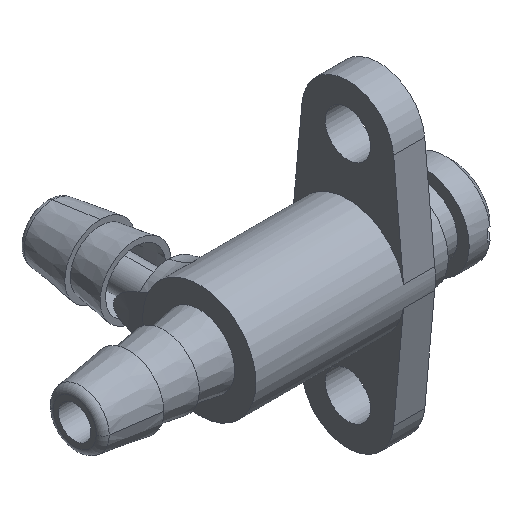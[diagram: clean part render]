
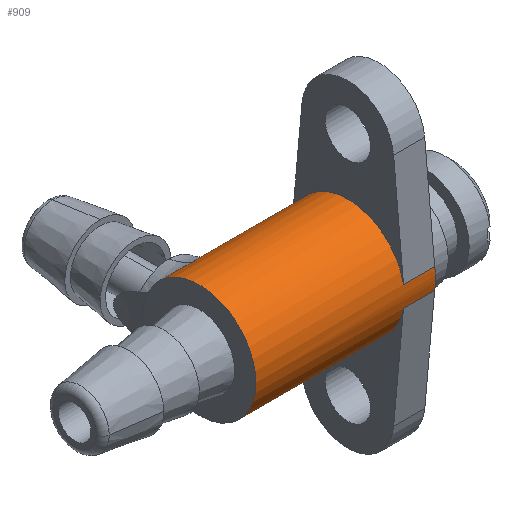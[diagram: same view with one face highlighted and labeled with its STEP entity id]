
A CAD part, isometric view. The second image highlights one B-rep face of the part: STEP entity #909.
In plain terms, the highlighted cylindrical face has radius 4 mm (diameter 8 mm), a full revolution.
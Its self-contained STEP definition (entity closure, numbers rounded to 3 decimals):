
#15=B_SPLINE_CURVE_WITH_KNOTS('',3,(#1611,#1612,#1613,#1614,#1615,#1616,
#1617,#1618,#1619,#1620),.UNSPECIFIED.,.F.,.F.,(4,2,2,2,4),(-1.303,
-1.261,-1.212,-1.082,-1.046),
 .UNSPECIFIED.);
#16=B_SPLINE_CURVE_WITH_KNOTS('',3,(#1622,#1623,#1624,#1625,#1626,#1627,
#1628,#1629,#1630,#1631,#1632,#1633,#1634,#1635,#1636,#1637,#1638,#1639,
#1640,#1641,#1642,#1643,#1644,#1645,#1646,#1647,#1648,#1649,#1650),
 .UNSPECIFIED.,.F.,.F.,(4,2,2,2,2,2,3,2,2,2,2,2,2,4),(-0.53,
-0.492,-0.432,-0.338,-0.193,
-0.091,0.,0.093,0.191,0.389,
0.496,0.545,0.582,0.585),
 .UNSPECIFIED.);
#17=B_SPLINE_CURVE_WITH_KNOTS('',3,(#1652,#1653,#1654,#1655,#1656,#1657,
#1658,#1659,#1660,#1661,#1662,#1663),.UNSPECIFIED.,.F.,.F.,(4,2,2,2,2,4),
(-0.808,-0.705,-0.626,-0.582,
-0.541,-0.53),.UNSPECIFIED.);
#104=FACE_OUTER_BOUND('',#158,.T.);
#158=EDGE_LOOP('',(#709,#710,#711,#712,#713,#714,#715,#716,#717,#718,#719,
#720,#721,#722,#723,#724));
#223=LINE('',#1595,#266);
#224=LINE('',#1599,#267);
#225=LINE('',#1603,#268);
#226=LINE('',#1607,#269);
#227=LINE('',#1667,#270);
#266=VECTOR('',#1270,2.2);
#267=VECTOR('',#1273,2.2);
#268=VECTOR('',#1276,2.2);
#269=VECTOR('',#1279,4.);
#270=VECTOR('',#1286,2.2);
#338=CIRCLE('',#1036,4.);
#339=CIRCLE('',#1037,4.);
#340=CIRCLE('',#1038,4.);
#341=CIRCLE('',#1039,4.);
#342=CIRCLE('',#1040,4.);
#343=CIRCLE('',#1041,4.);
#344=CIRCLE('',#1042,4.);
#428=VERTEX_POINT('',#1591);
#429=VERTEX_POINT('',#1592);
#430=VERTEX_POINT('',#1594);
#431=VERTEX_POINT('',#1596);
#432=VERTEX_POINT('',#1598);
#433=VERTEX_POINT('',#1600);
#434=VERTEX_POINT('',#1602);
#435=VERTEX_POINT('',#1604);
#436=VERTEX_POINT('',#1606);
#437=VERTEX_POINT('',#1608);
#438=VERTEX_POINT('',#1610);
#439=VERTEX_POINT('',#1621);
#440=VERTEX_POINT('',#1651);
#441=VERTEX_POINT('',#1665);
#539=EDGE_CURVE('',#428,#429,#338,.T.);
#540=EDGE_CURVE('',#428,#430,#223,.T.);
#541=EDGE_CURVE('',#431,#430,#339,.T.);
#542=EDGE_CURVE('',#431,#432,#224,.T.);
#543=EDGE_CURVE('',#433,#432,#340,.T.);
#544=EDGE_CURVE('',#433,#434,#225,.T.);
#545=EDGE_CURVE('',#435,#434,#341,.T.);
#546=EDGE_CURVE('',#435,#436,#226,.T.);
#547=EDGE_CURVE('',#436,#437,#342,.T.);
#548=EDGE_CURVE('',#438,#437,#15,.T.);
#549=EDGE_CURVE('',#439,#438,#16,.T.);
#550=EDGE_CURVE('',#440,#439,#17,.T.);
#551=EDGE_CURVE('',#440,#436,#343,.T.);
#552=EDGE_CURVE('',#441,#435,#344,.T.);
#553=EDGE_CURVE('',#441,#429,#227,.T.);
#709=ORIENTED_EDGE('',*,*,#539,.F.);
#710=ORIENTED_EDGE('',*,*,#540,.T.);
#711=ORIENTED_EDGE('',*,*,#541,.F.);
#712=ORIENTED_EDGE('',*,*,#542,.T.);
#713=ORIENTED_EDGE('',*,*,#543,.F.);
#714=ORIENTED_EDGE('',*,*,#544,.T.);
#715=ORIENTED_EDGE('',*,*,#545,.F.);
#716=ORIENTED_EDGE('',*,*,#546,.T.);
#717=ORIENTED_EDGE('',*,*,#547,.T.);
#718=ORIENTED_EDGE('',*,*,#548,.F.);
#719=ORIENTED_EDGE('',*,*,#549,.F.);
#720=ORIENTED_EDGE('',*,*,#550,.F.);
#721=ORIENTED_EDGE('',*,*,#551,.T.);
#722=ORIENTED_EDGE('',*,*,#546,.F.);
#723=ORIENTED_EDGE('',*,*,#552,.F.);
#724=ORIENTED_EDGE('',*,*,#553,.T.);
#868=CYLINDRICAL_SURFACE('',#1035,4.);
#909=ADVANCED_FACE('',(#104),#868,.T.);
#1035=AXIS2_PLACEMENT_3D('',#1590,#1266,#1267);
#1036=AXIS2_PLACEMENT_3D('',#1593,#1268,#1269);
#1037=AXIS2_PLACEMENT_3D('',#1597,#1271,#1272);
#1038=AXIS2_PLACEMENT_3D('',#1601,#1274,#1275);
#1039=AXIS2_PLACEMENT_3D('',#1605,#1277,#1278);
#1040=AXIS2_PLACEMENT_3D('',#1609,#1280,#1281);
#1041=AXIS2_PLACEMENT_3D('',#1664,#1282,#1283);
#1042=AXIS2_PLACEMENT_3D('',#1666,#1284,#1285);
#1266=DIRECTION('center_axis',(-1.,0.,0.));
#1267=DIRECTION('ref_axis',(0.,1.,0.));
#1268=DIRECTION('center_axis',(1.,0.,0.));
#1269=DIRECTION('ref_axis',(0.,0.983,0.183));
#1270=DIRECTION('',(1.,0.,0.));
#1271=DIRECTION('center_axis',(1.,0.,0.));
#1272=DIRECTION('ref_axis',(0.,0.983,-0.183));
#1273=DIRECTION('',(-1.,0.,0.));
#1274=DIRECTION('center_axis',(1.,0.,0.));
#1275=DIRECTION('ref_axis',(0.,0.,
-1.));
#1276=DIRECTION('',(1.,0.,0.));
#1277=DIRECTION('center_axis',(1.,0.,0.));
#1278=DIRECTION('ref_axis',(0.,-0.983,0.183));
#1279=DIRECTION('',(-1.,0.,0.));
#1280=DIRECTION('center_axis',(1.,0.,0.));
#1281=DIRECTION('ref_axis',(0.,0.906,0.424));
#1282=DIRECTION('center_axis',(1.,0.,0.));
#1283=DIRECTION('ref_axis',(0.,0.906,0.424));
#1284=DIRECTION('center_axis',(1.,0.,0.));
#1285=DIRECTION('ref_axis',(0.,-0.983,0.183));
#1286=DIRECTION('',(-1.,0.,0.));
#1590=CARTESIAN_POINT('Origin',(12.7,0.,0.));
#1591=CARTESIAN_POINT('',(10.5,3.933,0.73));
#1592=CARTESIAN_POINT('',(10.5,-3.933,0.73));
#1593=CARTESIAN_POINT('Origin',(10.5,0.,0.));
#1594=CARTESIAN_POINT('',(12.7,3.933,0.73));
#1595=CARTESIAN_POINT('',(10.5,3.933,0.73));
#1596=CARTESIAN_POINT('',(12.7,3.933,-0.73));
#1597=CARTESIAN_POINT('Origin',(12.7,0.,0.));
#1598=CARTESIAN_POINT('',(10.5,3.933,-0.73));
#1599=CARTESIAN_POINT('',(12.7,3.933,-0.73));
#1600=CARTESIAN_POINT('',(10.5,-3.933,-0.73));
#1601=CARTESIAN_POINT('Origin',(10.5,0.,0.));
#1602=CARTESIAN_POINT('',(12.7,-3.933,-0.73));
#1603=CARTESIAN_POINT('',(10.5,-3.933,-0.73));
#1604=CARTESIAN_POINT('',(12.7,-4.,0.));
#1605=CARTESIAN_POINT('Origin',(12.7,0.,0.));
#1606=CARTESIAN_POINT('',(0.,-4.,0.));
#1607=CARTESIAN_POINT('',(12.7,-4.,0.));
#1608=CARTESIAN_POINT('',(0.,3.622,-1.697));
#1609=CARTESIAN_POINT('Origin',(0.,0.,0.));
#1610=CARTESIAN_POINT('',(2.,2.441,-3.169));
#1611=CARTESIAN_POINT('Ctrl Pts',(2.,2.441,-3.169));
#1612=CARTESIAN_POINT('Ctrl Pts',(1.96,2.441,-3.169));
#1613=CARTESIAN_POINT('Ctrl Pts',(1.92,2.447,-3.164));
#1614=CARTESIAN_POINT('Ctrl Pts',(1.825,2.475,-3.142));
#1615=CARTESIAN_POINT('Ctrl Pts',(1.752,2.504,-3.12));
#1616=CARTESIAN_POINT('Ctrl Pts',(1.339,2.722,-2.938));
#1617=CARTESIAN_POINT('Ctrl Pts',(0.805,3.068,-2.631));
#1618=CARTESIAN_POINT('Ctrl Pts',(0.223,3.466,-2.003));
#1619=CARTESIAN_POINT('Ctrl Pts',(0.105,3.548,-1.855));
#1620=CARTESIAN_POINT('Ctrl Pts',(0.,3.622,
-1.697));
#1621=CARTESIAN_POINT('',(2.,2.441,3.169));
#1622=CARTESIAN_POINT('Ctrl Pts',(2.,2.441,3.169));
#1623=CARTESIAN_POINT('Ctrl Pts',(2.032,2.441,3.169));
#1624=CARTESIAN_POINT('Ctrl Pts',(2.064,2.445,3.166));
#1625=CARTESIAN_POINT('Ctrl Pts',(2.151,2.466,3.149));
#1626=CARTESIAN_POINT('Ctrl Pts',(2.22,2.492,3.13));
#1627=CARTESIAN_POINT('Ctrl Pts',(2.484,2.626,3.019));
#1628=CARTESIAN_POINT('Ctrl Pts',(2.706,2.761,2.902));
#1629=CARTESIAN_POINT('Ctrl Pts',(3.292,3.133,2.508));
#1630=CARTESIAN_POINT('Ctrl Pts',(3.644,3.373,2.194));
#1631=CARTESIAN_POINT('Ctrl Pts',(4.123,3.708,1.531));
#1632=CARTESIAN_POINT('Ctrl Pts',(4.282,3.822,1.228));
#1633=CARTESIAN_POINT('Ctrl Pts',(4.481,3.965,0.607));
#1634=CARTESIAN_POINT('Ctrl Pts',(4.529,4.,0.305));
#1635=CARTESIAN_POINT('Ctrl Pts',(4.529,4.,0.));
#1636=CARTESIAN_POINT('Ctrl Pts',(4.529,4.,-0.31));
#1637=CARTESIAN_POINT('Ctrl Pts',(4.48,3.964,-0.612));
#1638=CARTESIAN_POINT('Ctrl Pts',(4.289,3.827,-1.205));
#1639=CARTESIAN_POINT('Ctrl Pts',(4.149,3.726,-1.479));
#1640=CARTESIAN_POINT('Ctrl Pts',(3.649,3.376,-2.214));
#1641=CARTESIAN_POINT('Ctrl Pts',(3.224,3.086,-2.568));
#1642=CARTESIAN_POINT('Ctrl Pts',(2.63,2.715,-2.944));
#1643=CARTESIAN_POINT('Ctrl Pts',(2.438,2.601,-3.04));
#1644=CARTESIAN_POINT('Ctrl Pts',(2.234,2.5,-3.123));
#1645=CARTESIAN_POINT('Ctrl Pts',(2.175,2.475,-3.143));
#1646=CARTESIAN_POINT('Ctrl Pts',(2.079,2.447,-3.164));
#1647=CARTESIAN_POINT('Ctrl Pts',(2.043,2.442,-3.168));
#1648=CARTESIAN_POINT('Ctrl Pts',(2.005,2.441,-3.169));
#1649=CARTESIAN_POINT('Ctrl Pts',(2.003,2.441,-3.169));
#1650=CARTESIAN_POINT('Ctrl Pts',(2.,2.441,-3.169));
#1651=CARTESIAN_POINT('',(0.,3.622,1.697));
#1652=CARTESIAN_POINT('Ctrl Pts',(0.,3.622,
1.697));
#1653=CARTESIAN_POINT('Ctrl Pts',(0.264,3.437,2.092));
#1654=CARTESIAN_POINT('Ctrl Pts',(0.597,3.207,2.415));
#1655=CARTESIAN_POINT('Ctrl Pts',(1.222,2.804,2.865));
#1656=CARTESIAN_POINT('Ctrl Pts',(1.474,2.65,2.999));
#1657=CARTESIAN_POINT('Ctrl Pts',(1.745,2.508,3.117));
#1658=CARTESIAN_POINT('Ctrl Pts',(1.808,2.482,3.137));
#1659=CARTESIAN_POINT('Ctrl Pts',(1.899,2.452,3.16));
#1660=CARTESIAN_POINT('Ctrl Pts',(1.936,2.445,3.166));
#1661=CARTESIAN_POINT('Ctrl Pts',(1.981,2.441,3.169));
#1662=CARTESIAN_POINT('Ctrl Pts',(1.99,2.441,3.169));
#1663=CARTESIAN_POINT('Ctrl Pts',(2.,2.441,3.169));
#1664=CARTESIAN_POINT('Origin',(0.,0.,0.));
#1665=CARTESIAN_POINT('',(12.7,-3.933,0.73));
#1666=CARTESIAN_POINT('Origin',(12.7,0.,0.));
#1667=CARTESIAN_POINT('',(12.7,-3.933,0.73));
